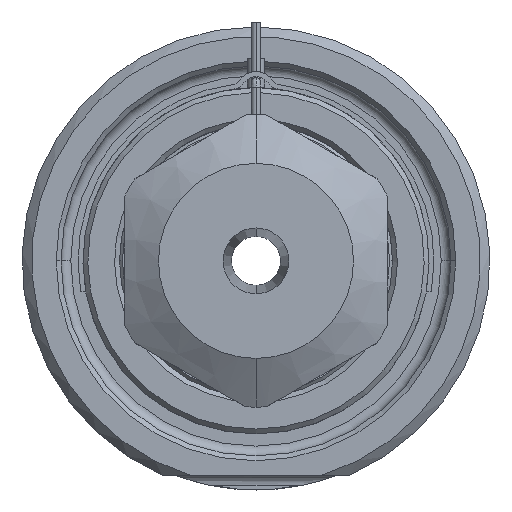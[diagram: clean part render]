
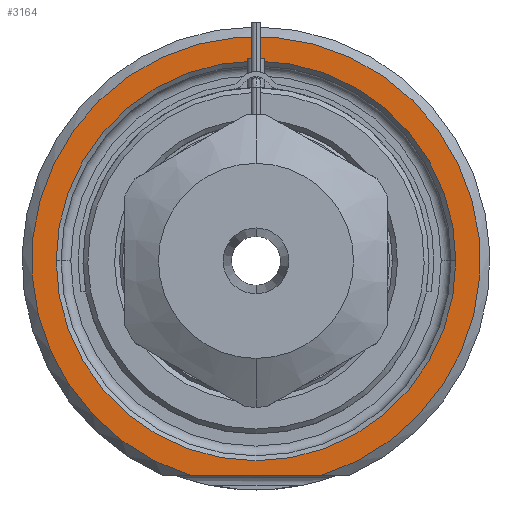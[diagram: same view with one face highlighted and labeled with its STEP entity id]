
A CAD part, front view. The second image highlights one B-rep face of the part: STEP entity #3164.
In plain terms, the highlighted planar face has unit normal (0, -1, 0).
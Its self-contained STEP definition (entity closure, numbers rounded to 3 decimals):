
#1=DIRECTION('',(1.,0.,0.));
#2=VECTOR('',#1,13.416);
#3=CARTESIAN_POINT('',(-6.708,0.,-22.));
#4=LINE('',#3,#2);
#5=CARTESIAN_POINT('',(0.,0.,0.));
#6=DIRECTION('',(0.,1.,0.));
#7=DIRECTION('',(-1.,0.,0.));
#8=AXIS2_PLACEMENT_3D('',#5,#6,#7);
#10=CARTESIAN_POINT('',(0.,0.,0.));
#11=DIRECTION('',(0.,1.,0.));
#12=DIRECTION('',(1.,0.,0.));
#13=AXIS2_PLACEMENT_3D('',#10,#11,#12);
#121=CARTESIAN_POINT('',(0.,0.,0.));
#122=DIRECTION('',(0.,-1.,0.));
#123=DIRECTION('',(0.292,0.,-0.957));
#124=AXIS2_PLACEMENT_3D('',#121,#122,#123);
#2613=CARTESIAN_POINT('',(-20.5,0.,0.));
#2614=CARTESIAN_POINT('',(20.5,0.,0.));
#2615=VERTEX_POINT('',#2613);
#2616=VERTEX_POINT('',#2614);
#2653=CARTESIAN_POINT('',(-6.708,0.,-22.));
#2654=CARTESIAN_POINT('',(6.708,0.,-22.));
#2655=VERTEX_POINT('',#2653);
#2656=VERTEX_POINT('',#2654);
#3147=CARTESIAN_POINT('',(0.,0.,0.));
#3148=DIRECTION('',(0.,-1.,0.));
#3149=DIRECTION('',(1.,0.,0.));
#3150=AXIS2_PLACEMENT_3D('',#3147,#3148,#3149);
#3151=PLANE('',#3150);
#3153=ORIENTED_EDGE('',*,*,#3152,.F.);
#3155=ORIENTED_EDGE('',*,*,#3154,.F.);
#3156=EDGE_LOOP('',(#3153,#3155));
#3157=FACE_OUTER_BOUND('',#3156,.F.);
#3159=ORIENTED_EDGE('',*,*,#3158,.F.);
#3161=ORIENTED_EDGE('',*,*,#3160,.F.);
#3162=EDGE_LOOP('',(#3159,#3161));
#3163=FACE_BOUND('',#3162,.F.);
#3164=ADVANCED_FACE('',(#3157,#3163),#3151,.T.);
#9=CIRCLE('',#8,20.5);
#14=CIRCLE('',#13,20.5);
#125=CIRCLE('',#124,23.);
#3152=EDGE_CURVE('',#2655,#2656,#4,.T.);
#3154=EDGE_CURVE('',#2656,#2655,#125,.T.);
#3158=EDGE_CURVE('',#2615,#2616,#9,.T.);
#3160=EDGE_CURVE('',#2616,#2615,#14,.T.);
